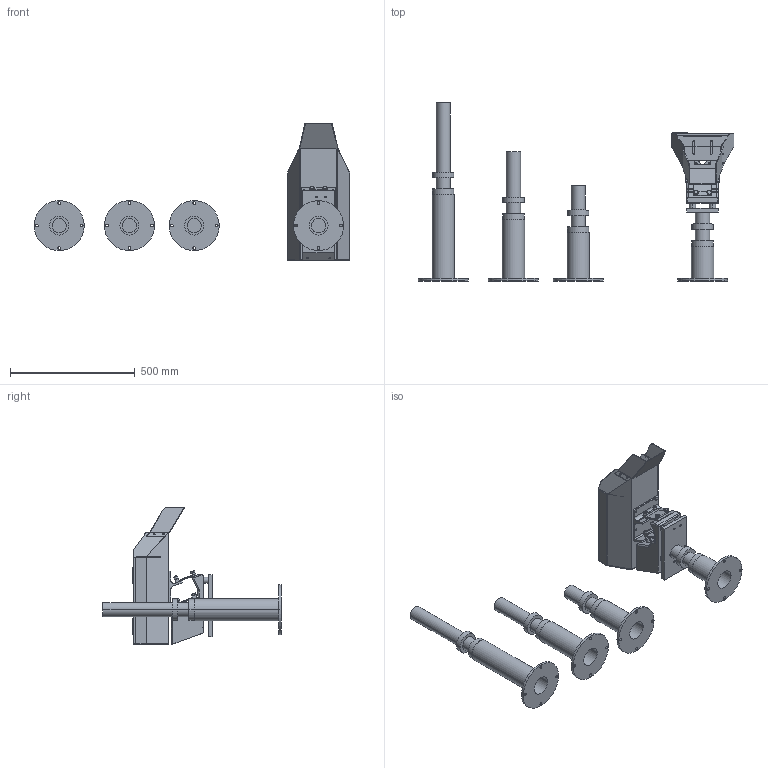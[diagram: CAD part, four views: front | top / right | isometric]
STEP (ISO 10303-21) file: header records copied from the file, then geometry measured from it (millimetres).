
FILE_DESCRIPTION (( 'STEP AP203' ), '1' );
FILE_NAME ('JSC-8 蹋羞 盓殤恁饜.STEP', '2025-07-13T02:34:58', ( '' ), ( '' ), 'SwSTEP 2.0', 'SolidWorks 2022', '' );
FILE_SCHEMA (( 'CONFIG_CONTROL_DESIGN' ));
Length unit declared in the file: millimetre
Products named in the file (1): JSC-8 蹋羞 盓殤恁饜
Bounding box: 1262.79 x 712.58 x 552 mm (x, y, z)
Volume: 10473005.3 mm3; surface area: 2251920.2 mm2
Topology: 30 solids, 34 shells, 772 faces, 1940 edges, 1254 vertices
Faces by surface type: plane 348, cylinder 340, cone 70, bspline 14
Entity records: 26986 total; most frequent: CARTESIAN_POINT 7922, DIRECTION 3972, ORIENTED_EDGE 3836, EDGE_CURVE 1918, AXIS2_PLACEMENT_3D 1489, VERTEX_POINT 1254, EDGE_LOOP 1014, LINE 994
